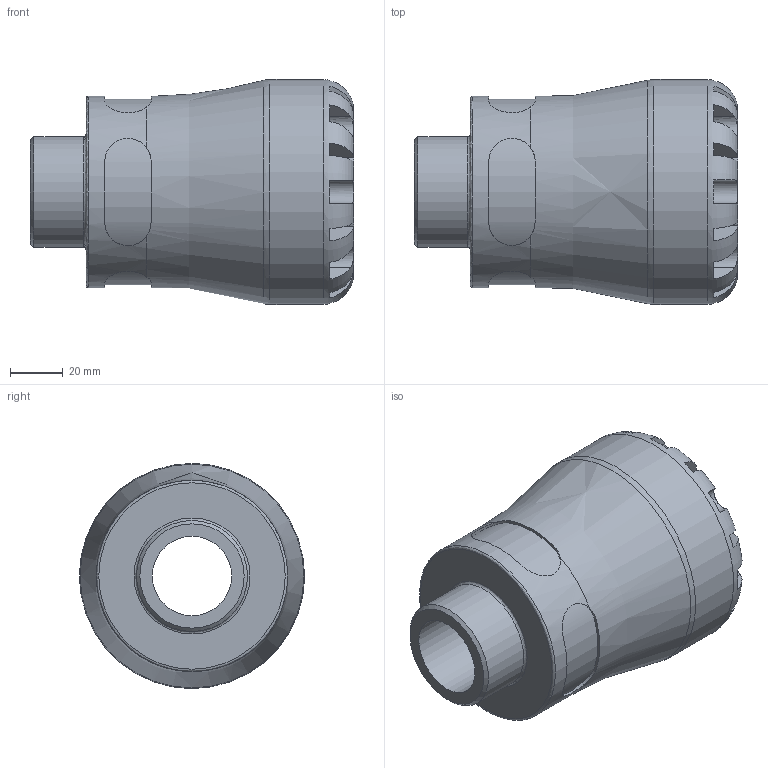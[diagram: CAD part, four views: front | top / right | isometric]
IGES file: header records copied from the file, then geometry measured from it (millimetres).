
Global section: file name: 100200050013_190200050013.ipt; native system: Autodesk Inventor 2015; preprocessor: unknown; author: KIM; date: 20170727.143953; units: millimetre
Bounding box: 122 x 85 x 85 mm (x, y, z)
Volume: 316839.6 mm3; surface area: 53672.2 mm2
Topology: 1 solids, 1 shells, 100 faces, 268 edges, 172 vertices
Faces by surface type: plane 60, revolution 24, cylinder 15, cone 1
Full cylindrical faces by diameter (mm): 41.91 x1, 72.25 x1, 85 x1
